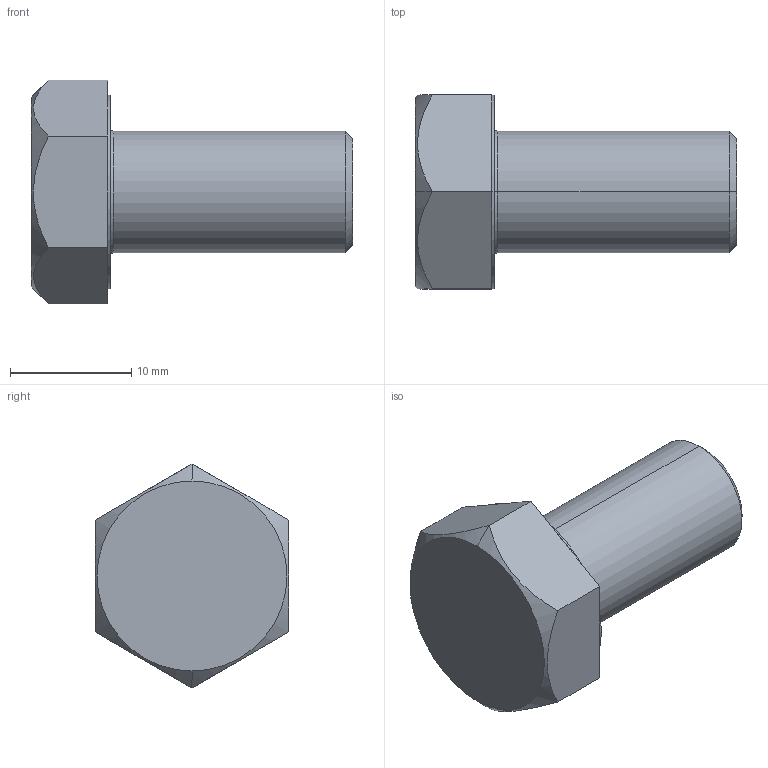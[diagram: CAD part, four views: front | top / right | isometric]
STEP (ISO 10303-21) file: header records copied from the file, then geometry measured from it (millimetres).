
FILE_DESCRIPTION (( 'STEP AP203' ), '1' );
FILE_NAME ('LGN-TD-M10x20.STEP', '2026-08-14T04:40:53', ( '' ), ( '' ), 'SwSTEP 2.0', 'SolidWorks 2020', '' );
FILE_SCHEMA (( 'CONFIG_CONTROL_DESIGN' ));
Length unit declared in the file: millimetre
Products named in the file (1): LGN-TD-M10x20
Bounding box: 26.5 x 16 x 18.48 mm (x, y, z)
Volume: 2991.2 mm3; surface area: 1394.8 mm2
Topology: 1 solids, 1 shells, 25 faces, 54 edges, 32 vertices
Faces by surface type: plane 15, cone 4, cylinder 4, torus 2
Entity records: 811 total; most frequent: CARTESIAN_POINT 184, DIRECTION 122, ORIENTED_EDGE 108, EDGE_CURVE 54, AXIS2_PLACEMENT_3D 48, VERTEX_POINT 32, LINE 26, EDGE_LOOP 26
